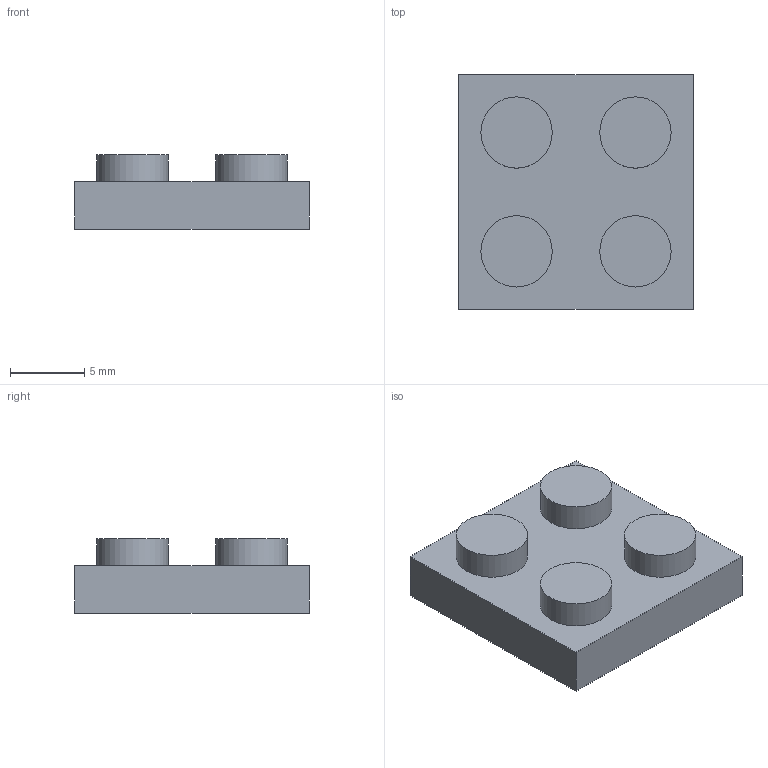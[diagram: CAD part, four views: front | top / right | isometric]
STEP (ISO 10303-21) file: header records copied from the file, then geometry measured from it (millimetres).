
FILE_DESCRIPTION(('Open CASCADE Model'),'2;1');
FILE_NAME('Open CASCADE Shape Model','2026-11-14T12:24:55',('Author'),( 'Open CASCADE'),'Open CASCADE STEP processor 7.9','Open CASCADE 7.9' ,'Unknown');
FILE_SCHEMA(('AUTOMOTIVE_DESIGN { 1 0 10303 214 1 1 1 1 }'));
Length unit declared in the file: millimetre
Products named in the file (1): Open CASCADE STEP translator 7.9 1
Bounding box: 15.8 x 15.8 x 5 mm (x, y, z)
Volume: 929.1 mm3; surface area: 810.1 mm2
Topology: 1 solids, 1 shells, 14 faces, 24 edges, 16 vertices
Faces by surface type: plane 10, cylinder 4
Full cylindrical faces by diameter (mm): 4.8 x4
Entity records: 658 total; most frequent: DIRECTION 110, CARTESIAN_POINT 103, LINE 56, VECTOR 56, ORIENTED_EDGE 48, PCURVE 48, DEFINITIONAL_REPRESENTATION 48, EDGE_CURVE 24
